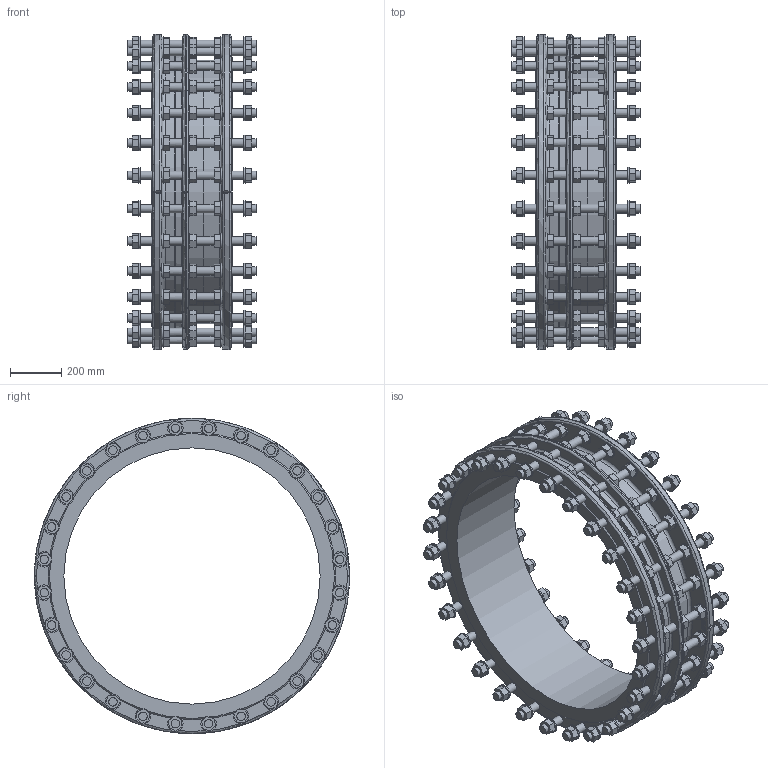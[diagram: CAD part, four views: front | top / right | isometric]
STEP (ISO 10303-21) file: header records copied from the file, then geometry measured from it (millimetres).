
FILE_DESCRIPTION (( 'STEP AP203' ), '1' );
FILE_NAME ('O_265_911_DN1000_0XXXXX01_L=315_REV01.step', '2024-12-12T08:34:45', ( '' ), ( '' ), 'SwSTEP 2.0', 'SolidWorks 2022', '' );
FILE_SCHEMA (( 'CONFIG_CONTROL_DESIGN' ));
Length unit declared in the file: millimetre
Products named in the file (1): O_265_911_DN1000_0XXXXX01_L=315_REV01
Bounding box: 500 x 1229.97 x 1230 mm (x, y, z)
Volume: 72829338.3 mm3; surface area: 5644669.5 mm2
Topology: 1 solids, 1 shells, 1736 faces, 4245 edges, 2801 vertices
Faces by surface type: plane 1403, cylinder 320, torus 10, cone 3
Full cylindrical faces by diameter (mm): 33 x168, 60 x140, 1000 x1, 1030 x2, 1074 x1
Entity records: 48934 total; most frequent: CARTESIAN_POINT 9556, DIRECTION 8091, ORIENTED_EDGE 7422, EDGE_CURVE 3711, AXIS2_PLACEMENT_3D 2723, LINE 2645, VECTOR 2645, VERTEX_POINT 2592
